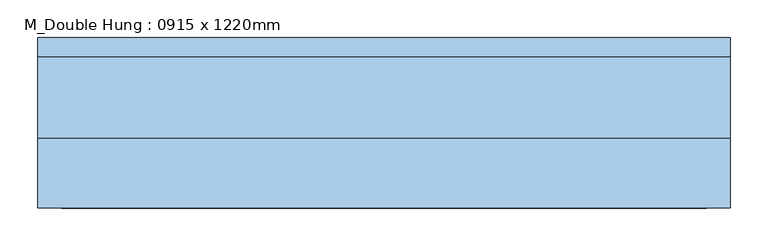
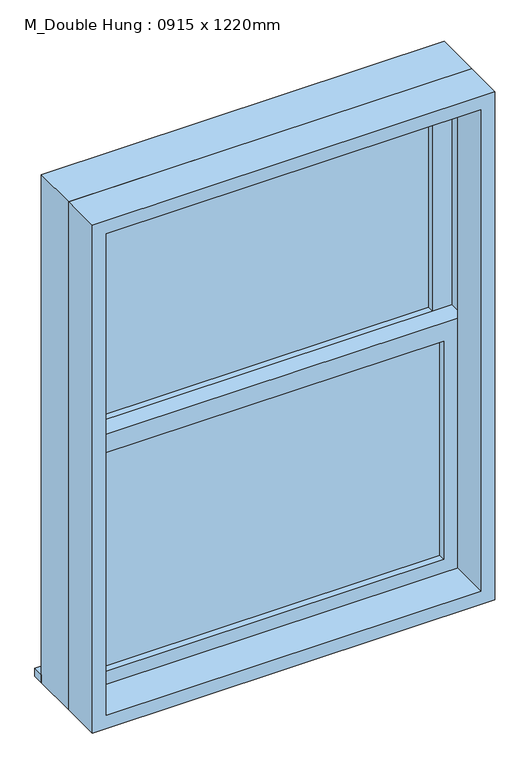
"""IFC4 building model written with IfcOpenShell, lengths in millimetres: window geometry, M_Double Hung : 0915 x 1220mm."""

from ifc_helpers import new_model, si_unit, frame, origin, place, context, project, spatial, polyline, outline, extrude, source, transform, mapped, element, save


def m_double_hung_0915_x_1220mm_97183f91(model_context):
    return source(origin(), model_context, "Body", "SweptSolid", [
        extrude(outline(polyline([(-394.0, 20.675), (394.0, 20.675), (394.0, 7.975), (-394.0, 7.975), (-394.0, 20.675)])), frame((0.0, 0.0, 978.5), z_axis=(0.0, 0.0, 1.0), x_axis=(1.0, 0.0, 0.0)), (0.0, 0.0, 1.0), 524.275),
        extrude(outline(polyline([(1547.225, -438.45), (934.05, -438.45), (934.05, 438.45), (1547.225, 438.45), (1547.225, -438.45)]), holes=[polyline([(1502.775, -394.0), (1502.775, 394.0), (978.5, 394.0), (978.5, -394.0), (1502.775, -394.0)])]), frame((0.0, -7.9, 0.0), z_axis=(0.0, 1.0, 0.0), x_axis=(0.0, 0.0, 1.0)), (0.0, 0.0, 1.0), 44.45),
        extrude(outline(polyline([(-457.5, 125.4), (457.5, 125.4), (457.5, 100.0), (-457.5, 100.0), (-457.5, 125.4)])), frame((0.0, 0.0, 915.0), z_axis=(0.0, 0.0, 1.0), x_axis=(1.0, 0.0, 0.0)), (0.0, 0.0, 1.0), 19.05),
        extrude(outline(polyline([(394.0, 52.425), (-394.0, 52.425), (-394.0, 65.125), (394.0, 65.125), (394.0, 52.425)])), frame((0.0, 0.0, 1547.225), z_axis=(0.0, 0.0, 1.0), x_axis=(1.0, 0.0, 0.0)), (0.0, 0.0, 1.0), 524.275),
        extrude(outline(polyline([(2115.95, -438.45), (1502.775, -438.45), (1502.775, 438.45), (2115.95, 438.45), (2115.95, -438.45)]), holes=[polyline([(2071.5, -394.0), (2071.5, 394.0), (1547.225, 394.0), (1547.225, -394.0), (2071.5, -394.0)])]), frame((0.0, 36.55, 0.0), z_axis=(0.0, 1.0, 0.0), x_axis=(0.0, 0.0, 1.0)), (0.0, 0.0, 1.0), 44.45),
        extrude(outline(polyline([(2135.0, -457.5), (915.0, -457.5), (915.0, 457.5), (2135.0, 457.5), (2135.0, -457.5)]), holes=[polyline([(2103.25, -425.75), (2103.25, 425.75), (946.75, 425.75), (946.75, -425.75), (2103.25, -425.75)])]), frame((0.0, -100.0, 0.0), z_axis=(0.0, 1.0, 0.0), x_axis=(0.0, 0.0, 1.0)), (0.0, 0.0, 1.0), 92.1),
        extrude(outline(polyline([(2135.0, 457.5), (2135.0, -457.5), (915.0, -457.5), (915.0, 457.5), (2135.0, 457.5)]), holes=[polyline([(2115.95, 438.45), (934.05, 438.45), (934.05, -438.45), (2115.95, -438.45), (2115.95, 438.45)])]), frame((0.0, -7.9, 0.0), z_axis=(0.0, 1.0, 0.0), x_axis=(0.0, 0.0, 1.0)), (0.0, 0.0, 1.0), 107.9),
    ])


if __name__ == "__main__":
    model = new_model("IFC4")
    model_context = context("Model", 3, world=origin())
    ifc_project = project(units=[si_unit("LENGTHUNIT", "METRE", prefix="MILLI")], contexts=[model_context])
    site = spatial("IfcSite", under=ifc_project)
    building = spatial("IfcBuilding", under=site)
    placement = place(None, origin())
    m_double_hung_0915_x_1220mm_shape = m_double_hung_0915_x_1220mm_97183f91(model_context)
    element("IfcWindow", 1, ObjectType="M_Double Hung : 0915 x 1220mm", at=placement, inside=building, context=model_context, shape_type="MappedRepresentation", body=[
        mapped(m_double_hung_0915_x_1220mm_shape, transform((0.0, 0.0, 0.0), x_axis=(1.0, 0.0, 0.0), y_axis=(0.0, 1.0, 0.0), z_axis=(0.0, 0.0, 1.0))),
    ])
    save(model, "model.ifc")
